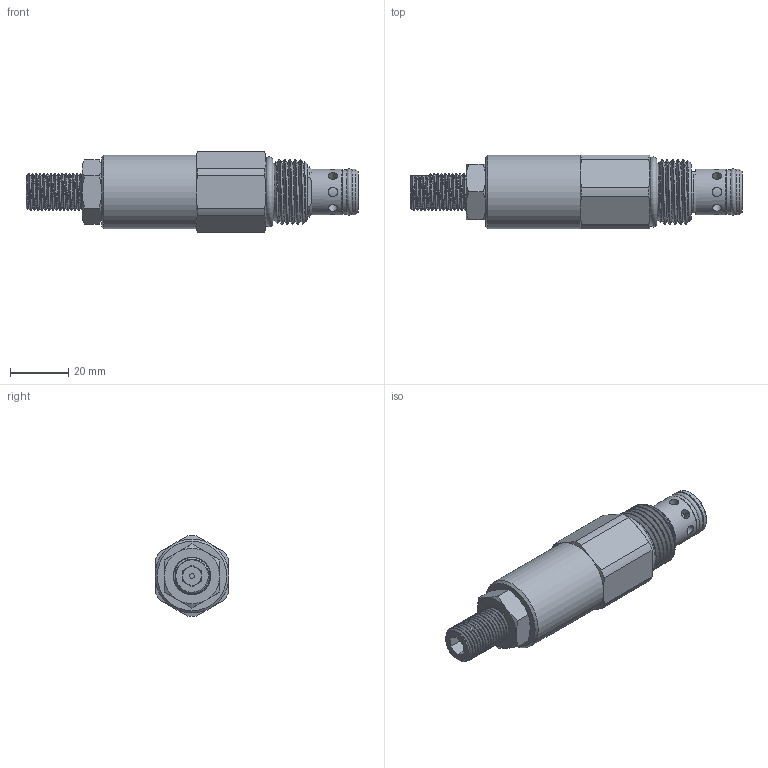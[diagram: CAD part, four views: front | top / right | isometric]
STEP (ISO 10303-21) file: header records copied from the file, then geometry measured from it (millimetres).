
FILE_DESCRIPTION(/* description */ ('DE-RVR-00-4000'),/* implementation_level */ '2;1');
FILE_NAME(/* name */ 'R:\Solids\Valve Solids exterior\Solids (.STEP)\DERVR00-3D Full.stp',/* time_stamp */ '2023-11-13T14:03:24-06:00',/* author */ ('jared'),/* organization */ (''),/* preprocessor_version */ 'ST-DEVELOPER v17',/* originating_system */ 'Autodesk Inventor 2019',/* authorisation */ '');
FILE_SCHEMA (('AUTOMOTIVE_DESIGN { 1 0 10303 214 3 1 1 }'));
Length unit declared in the file: inch
Products named in the file (1): 85002181
Bounding box: 114.07 x 25.4 x 27.74 mm (x, y, z)
Volume: 41494.4 mm3; surface area: 11036.3 mm2
Topology: 1 solids, 1 shells, 179 faces, 556 edges, 399 vertices
Faces by surface type: cylinder 59, plane 51, cone 37, bspline 28, torus 4
Full cylindrical faces by diameter (mm): 1.6 x1, 3.175 x8, 6.35 x1, 6.388 x1, 9.53 x1, 12.7 x9, 12.992 x3, 15.392 x1, 15.761 x2, 17.399 x1, 19.621 x2, 22.225 x4, 25.4 x1
Entity records: 17524 total; most frequent: CARTESIAN_POINT 12931, ORIENTED_EDGE 1110, DIRECTION 654, EDGE_CURVE 555, VERTEX_POINT 399, AXIS2_PLACEMENT_3D 275, B_SPLINE_CURVE_WITH_KNOTS 270, EDGE_LOOP 202
